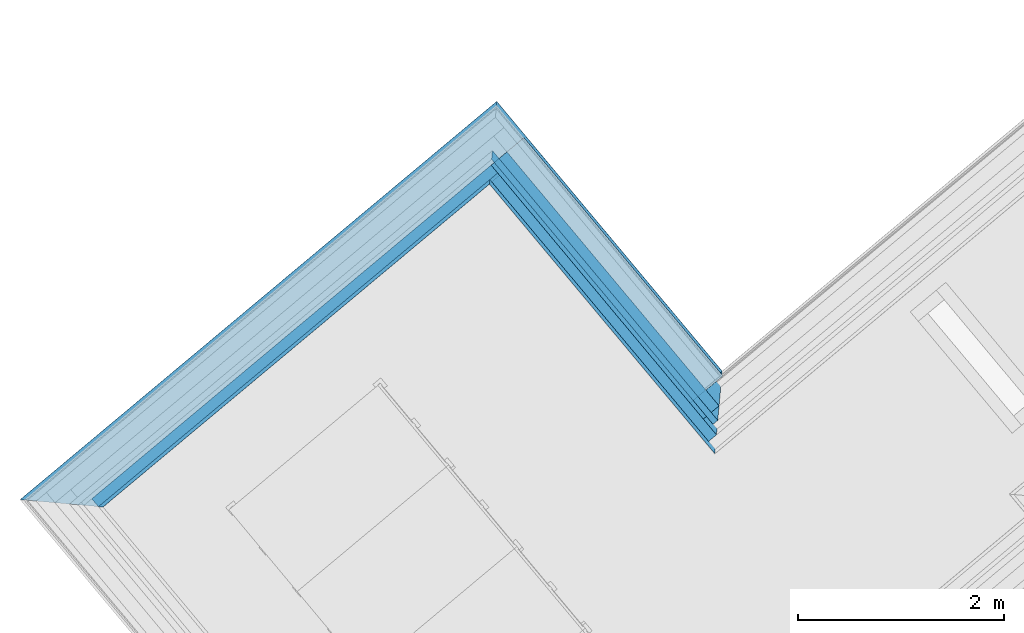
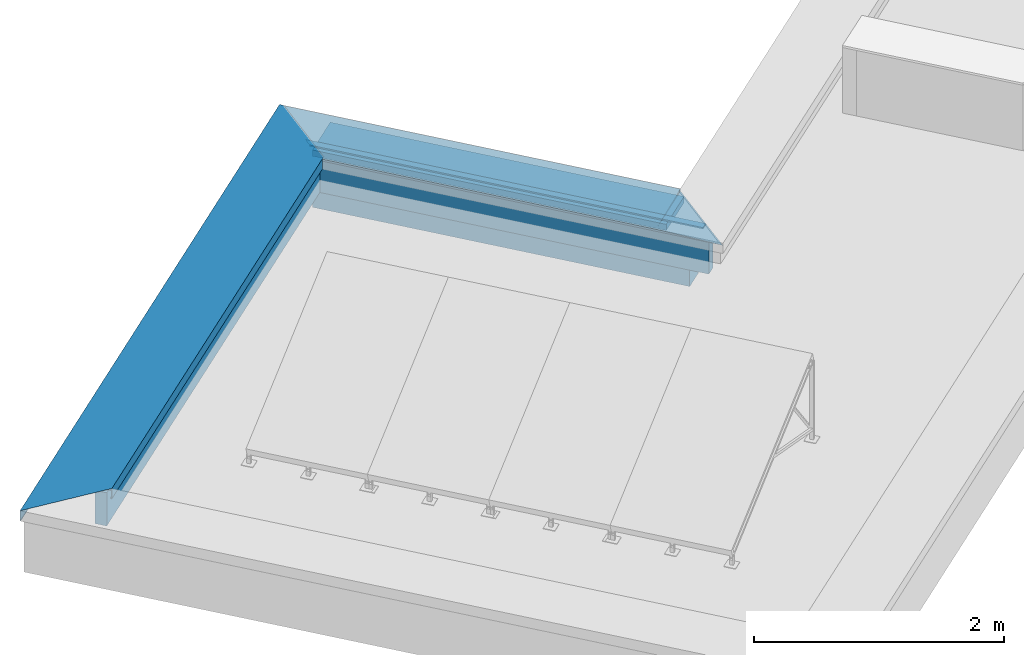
# One storey, part 3 of 13: 8 building element parts, 2 elements without a shape of their own.
"""IFC4 building model written with IfcOpenShell, lengths in metres."""

from ifc_helpers import new_model, entity, si_unit, converted_unit, derived_unit, direction, frame, origin_with_axes, place, context, subcontext, project, spatial, polygons, material, type_object, element, aggregate, save


model = new_model("IFC4")

# Units and contexts
model_context = context("Model", 3, precision=1e-05, world=origin_with_axes(), true_north=direction((0.0, 1.0)))
body_context = subcontext(model_context, "Body", "Model", "MODEL_VIEW")
ifc_project = project(units=[si_unit("LENGTHUNIT", "METRE"), si_unit("AREAUNIT", "SQUARE_METRE"), si_unit("VOLUMEUNIT", "CUBIC_METRE"), converted_unit("PLANEANGLEUNIT", "DEGREE", entity("IfcPlaneAngleMeasure", 0.0174532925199), si_unit("PLANEANGLEUNIT", "RADIAN"), dimensions=[0, 0, 0, 0, 0, 0, 0]), converted_unit("TIMEUNIT", "Year", entity("IfcTimeMeasure", 31556926.0), si_unit("TIMEUNIT", "SECOND"), dimensions=[0, 0, 1, 0, 0, 0, 0]), si_unit("MASSUNIT", "GRAM", prefix="KILO"), si_unit("THERMODYNAMICTEMPERATUREUNIT", "DEGREE_CELSIUS"), si_unit("LUMINOUSINTENSITYUNIT", "LUMEN"), si_unit("ENERGYUNIT", "JOULE", prefix="MEGA"), derived_unit("THERMALCONDUCTANCEUNIT", [(si_unit("POWERUNIT", "WATT"), 1), (si_unit("LENGTHUNIT", "METRE"), -1), (si_unit("THERMODYNAMICTEMPERATUREUNIT", "KELVIN"), -1)]), derived_unit("SPECIFICHEATCAPACITYUNIT", [(si_unit("ENERGYUNIT", "JOULE"), 1), (si_unit("MASSUNIT", "GRAM", prefix="KILO"), -1), (si_unit("THERMODYNAMICTEMPERATUREUNIT", "KELVIN"), -1)]), derived_unit("MASSDENSITYUNIT", [(si_unit("MASSUNIT", "GRAM", prefix="KILO"), 1), (si_unit("VOLUMEUNIT", "CUBIC_METRE"), -1)])], contexts=[model_context])

# Site, building, storey
site_placement = place(None, frame((-0.00153261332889, -0.00661245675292, 0.0), z_axis=(0.0, 0.0, 1.0), x_axis=(1.0, 0.0, 0.0)))
site = spatial("IfcSite", under=ifc_project, at=site_placement, Name="Gelände", CompositionType="ELEMENT")
building_placement = place(site_placement, origin_with_axes())
building = spatial("IfcBuilding", under=site, at=building_placement, Name="Gebäude", CompositionType="ELEMENT")
storey_placement = place(building_placement, frame((0.0, 0.0, 11.84), z_axis=(0.0, 0.0, 1.0), x_axis=(1.0, 0.0, 0.0)))
storey = spatial("IfcBuildingStorey", under=building, at=storey_placement, Name="DA", CompositionType="ELEMENT", Elevation=11.84)

# Wall, building element parts
wall_type = type_object("IfcWallType", Name="Individuelles Profil 574 x 610", PredefinedType="NOTDEFINED")
wall_1_placement = place(storey_placement, frame((-7.43474309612, 17.8596956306, 0.0), z_axis=(0.0, 0.0, 1.0), x_axis=(0.767365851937, 0.641209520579, 0.0)))
wall_1 = element("IfcWall", 1, at=wall_1_placement, inside=storey, type_object=wall_type, Name="Wand-004", PredefinedType="NOTDEFINED")
ifc_material_1 = material(Name="EPS 1")
building_element_part_1_placement = place(wall_1_placement, origin_with_axes())
building_element_part_1 = element("IfcBuildingElementPart", 2, at=building_element_part_1_placement, material=ifc_material_1, Name="EPS 1", PredefinedType="NOTDEFINED", context=body_context, shape_type="Tessellation", body=[
    polygons([(5.36020574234, -0.30000000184, 0.519224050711), (5.36020574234, -0.30000000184, 0.560000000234), (0.300000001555, -0.30000000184, 0.560000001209), (0.300000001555, -0.30000000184, 0.519224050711), (0.300000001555, -0.30000000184, 0.51136132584), (0.300000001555, -0.30000000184, 0.509050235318), (0.300000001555, -0.30000000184, 0.499999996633), (0.300000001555, -0.30000000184, 0.498822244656), (0.300000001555, -0.30000000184, 0.491006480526), (0.300000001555, -0.30000000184, 0.488695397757), (0.300000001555, -0.30000000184, 0.235000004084), (5.36020574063, -0.30000000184, 0.235000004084), (5.36020574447, -0.30000000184, 0.488695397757), (5.3602057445, -0.30000000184, 0.491006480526), (5.36020574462, -0.30000000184, 0.498822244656), (5.36020574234, -0.30000000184, 0.499999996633), (5.36020574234, -0.30000000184, 0.509050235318), (5.36020574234, -0.30000000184, 0.51136132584), (5.36020574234, -0.200000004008, 0.560000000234), (5.36020574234, -0.200000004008, 0.519224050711), (0.30000000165, -0.200000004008, 0.560000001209), (0.30000000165, -0.200000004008, 0.519224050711), (0.30000000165, -0.200000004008, 0.51136132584), (0.30000000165, -0.200000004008, 0.509050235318), (0.30000000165, -0.200000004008, 0.499999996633), (0.30000000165, -0.200000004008, 0.498822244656), (0.30000000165, -0.200000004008, 0.491006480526), (0.30000000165, -0.200000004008, 0.488695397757), (0.30000000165, -0.200000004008, 0.235000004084), (5.36020574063, -0.200000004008, 0.235000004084), (5.36020574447, -0.200000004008, 0.488695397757), (5.3602057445, -0.200000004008, 0.491006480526), (5.36020574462, -0.200000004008, 0.498822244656), (5.36020574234, -0.200000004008, 0.499999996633), (5.36020574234, -0.200000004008, 0.509050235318), (5.36020574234, -0.200000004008, 0.51136132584)], [[[1, 2, 3, 4, 5, 6, 7, 8, 9, 10, 11, 12, 13, 14, 15, 16, 17, 18]], [[19, 2, 1, 20]], [[2, 19, 21, 3]], [[4, 3, 21, 22]], [[4, 22, 23, 5]], [[5, 23, 24, 6]], [[6, 24, 25, 7]], [[7, 25, 26, 8]], [[8, 26, 27, 9]], [[9, 27, 28, 10]], [[10, 28, 29, 11]], [[30, 12, 11, 29]], [[31, 13, 12, 30]], [[32, 14, 13, 31]], [[33, 15, 14, 32]], [[34, 16, 15, 33]], [[35, 17, 16, 34]], [[36, 18, 17, 35]], [[20, 1, 18, 36]], [[19, 20, 36, 35, 34, 33, 32, 31, 30, 29, 28, 27, 26, 25, 24, 23, 22, 21]]], closed=True),
])
ifc_material_2 = material(Name="Holzwerkstoff")
building_element_part_2_placement = place(wall_1_placement, origin_with_axes())
building_element_part_2 = element("IfcBuildingElementPart", 3, at=building_element_part_2_placement, material=ifc_material_2, Name="Holzwerkstoff", PredefinedType="NOTDEFINED", context=body_context, shape_type="Tessellation", body=[
    polygons([(0.330698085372, -0.330698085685, 0.587937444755), (-0.239276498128, 0.239276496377, 0.608570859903), (0.330698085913, 0.23999703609, 0.587937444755), (5.80020278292, -0.330698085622, 0.587937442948), (5.79948224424, 0.239276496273, 0.608570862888), (0.330695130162, 0.239999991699, 0.587852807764), (5.80020278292, 0.239997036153, 0.587937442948), (5.80020573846, 0.239999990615, 0.587852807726), (0.330634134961, -0.330634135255, 0.586106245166), (0.330634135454, 0.189985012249, 0.586106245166), (0.330280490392, -0.330280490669, 0.575979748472), (0.330207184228, -0.330207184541, 0.573880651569), (0.329999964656, -0.329999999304, 0.567947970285), (5.23020580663, -0.329999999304, 0.567947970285), (5.40009552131, -0.330207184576, 0.573880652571), (5.46020574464, -0.330280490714, 0.575979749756), (5.69033072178, -0.33056113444, 0.584015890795), (5.75019065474, -0.330634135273, 0.586106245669), (5.80020573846, -0.330695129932, 0.587852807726), (0.330561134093, -0.330561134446, 0.584015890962), (5.75019053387, 0.189984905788, 0.586106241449), (0.330561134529, 0.130125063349, 0.584015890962), (0.33028049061, -0.100000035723, 0.575979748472), (0.33020718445, -0.160110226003, 0.573880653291), (5.40009551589, -0.160110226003, 0.573880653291), (5.46020574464, -0.0999999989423, 0.575979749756), (5.69033072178, 0.130124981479, 0.584015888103)], [[[1, 2, 3]], [[2, 1, 4, 5]], [[6, 3, 2, 5, 7, 8]], [[9, 1, 3, 6, 10]], [[11, 12, 13, 14, 15, 16, 17, 18, 19, 4, 1, 9, 20]], [[7, 5, 4]], [[8, 7, 4, 19]], [[10, 6, 8, 21]], [[20, 9, 10, 22]], [[12, 11, 23, 24]], [[13, 12, 24]], [[13, 24, 25, 14]], [[15, 14, 25]], [[16, 15, 25, 26]], [[16, 26, 27, 17]], [[27, 21, 18, 17]], [[21, 8, 19, 18]], [[23, 11, 20, 22]], [[22, 10, 21, 27]], [[24, 23, 26, 25]], [[23, 22, 27, 26]]], closed=True),
])
ifc_material_3 = material(Name="Stahl")
building_element_part_3_placement = place(wall_1_placement, origin_with_axes())
building_element_part_3 = element("IfcBuildingElementPart", 4, at=building_element_part_3_placement, material=ifc_material_3, Name="Stahl", PredefinedType="NOTDEFINED", context=body_context, shape_type="Tessellation", body=[
    polygons([(-0.240150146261, 0.240150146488, 0.567947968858), (-0.240150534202, 0.24015053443, 0.573880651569), (-0.240150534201, 0.241500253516, 0.573880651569), (-0.240150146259, 0.241500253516, 0.567947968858), (-0.240146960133, 0.240146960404, 0.519224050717), (-0.24014644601, 0.240146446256, 0.51136132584), (-0.238231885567, 0.240146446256, 0.511361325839), (5.80035219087, 0.240146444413, 0.51136132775), (5.80170600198, 0.240146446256, 0.51136132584), (5.80170600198, 0.240152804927, 0.608602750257), (5.80035854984, 0.240152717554, 0.608602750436), (-0.202730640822, 0.240152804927, 0.608602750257), (-0.240152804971, 0.240152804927, 0.608602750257), (-0.240152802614, 0.240152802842, 0.608570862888), (-0.240151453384, 0.240151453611, 0.587937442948), (-0.240151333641, 0.240151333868, 0.586106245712), (-0.240151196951, 0.240151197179, 0.584015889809), (-0.240150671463, 0.240150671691, 0.575979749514), (-0.240149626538, 0.240149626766, 0.55999999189), (-0.240150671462, 0.241500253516, 0.575979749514), (-0.238231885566, 0.241500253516, 0.511361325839), (-0.240146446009, 0.241500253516, 0.51136132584), (-0.240146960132, 0.241500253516, 0.519224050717), (-0.240149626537, 0.241500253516, 0.55999999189), (-0.24015119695, 0.241500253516, 0.584015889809), (-0.240151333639, 0.241500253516, 0.586106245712), (-0.240151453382, 0.241500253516, 0.587937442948), (-0.240152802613, 0.241500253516, 0.608570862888), (-0.24015280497, 0.241500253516, 0.608602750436), (-0.20273064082, 0.241500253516, 0.608602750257), (-0.241500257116, 0.241500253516, 0.610006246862), (5.80170600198, 0.241500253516, 0.610006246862), (5.80170600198, 0.241500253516, 0.510007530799), (-0.239585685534, 0.241500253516, 0.510007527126), (-0.231373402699, 0.233287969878, 0.518219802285), (-0.232283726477, 0.232283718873, 0.51922405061), (5.79248947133, 0.232283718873, 0.51922405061), (5.80035219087, 0.238231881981, 0.51136132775), (5.80170599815, 0.238231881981, 0.51136132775), (5.80170600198, 0.239585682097, 0.510007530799), (5.80170599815, 0.202730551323, 0.608602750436), (5.80035854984, 0.202730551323, 0.608602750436), (-0.201849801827, 0.239276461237, 0.608570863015), (-0.201934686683, 0.239360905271, 0.60857393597), (5.79956660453, 0.239360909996, 0.608573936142), (5.79948224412, 0.239276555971, 0.608570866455), (-0.202730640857, 0.202730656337, 0.608602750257), (-0.201849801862, 0.201849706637, 0.608570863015), (0.332051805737, -0.332051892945, 0.58924311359), (5.26557531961, -0.332051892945, 0.58924311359), (5.79948224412, 0.201849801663, 0.608570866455), (-0.240542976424, 0.240542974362, 0.509050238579), (5.80074872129, 0.240542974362, 0.509050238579), (-0.238231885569, 0.238231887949, 0.51136132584), (-0.231373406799, 0.231373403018, 0.518219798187), (5.79349372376, 0.231373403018, 0.518219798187), (0.332051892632, -0.330698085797, 0.587937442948), (0.332051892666, -0.294630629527, 0.589243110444), (5.22950765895, -0.330698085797, 0.587937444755), (0.332051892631, -0.332051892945, 0.491006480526), (0.332051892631, -0.332051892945, 0.489652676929), (5.23006841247, -0.332051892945, 0.489652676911), (5.23142221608, -0.332051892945, 0.491006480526), (5.22950765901, -0.332051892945, 0.491006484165), (5.22950766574, -0.332051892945, 0.498822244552), (5.22950766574, -0.332051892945, 0.499999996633), (5.22950766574, -0.332051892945, 0.509050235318), (5.22950766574, -0.332051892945, 0.51136132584), (5.22950766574, -0.332051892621, 0.519224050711), (5.22950766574, -0.332051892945, 0.55999999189), (5.22950766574, -0.332051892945, 0.567947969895), (5.22950766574, -0.332051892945, 0.573880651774), (5.22950766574, -0.332051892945, 0.575979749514), (5.22950766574, -0.332051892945, 0.584015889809), (5.22950766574, -0.332051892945, 0.586106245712), (5.22950765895, -0.332051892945, 0.587937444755), (0.332051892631, -0.332051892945, 0.587937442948), (0.332051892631, -0.332051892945, 0.586106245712), (0.332051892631, -0.332051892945, 0.584015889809), (0.332051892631, -0.332051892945, 0.575979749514), (0.332051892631, -0.332051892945, 0.573880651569), (0.332051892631, -0.332051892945, 0.567947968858), (0.332051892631, -0.332051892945, 0.55999999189), (0.332051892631, -0.332051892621, 0.519224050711), (0.332051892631, -0.332051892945, 0.51136132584), (0.332051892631, -0.332051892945, 0.509050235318), (0.332051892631, -0.332051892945, 0.499999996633), (0.332051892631, -0.332051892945, 0.498822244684), (0.332051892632, -0.330698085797, 0.491006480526), (0.332051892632, -0.330698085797, 0.498822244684), (0.332051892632, -0.330698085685, 0.499999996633), (0.332051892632, -0.330698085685, 0.509050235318), (0.332051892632, -0.330698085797, 0.51136132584), (0.332051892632, -0.330698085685, 0.519224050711), (0.332051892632, -0.330698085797, 0.55999999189), (0.332051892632, -0.330698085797, 0.567947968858), (0.332051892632, -0.330698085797, 0.573880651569), (0.332051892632, -0.330698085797, 0.575979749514), (0.332051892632, -0.330698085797, 0.584015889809), (0.332051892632, -0.330698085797, 0.586106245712), (5.22950766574, -0.330698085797, 0.586106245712), (5.22950766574, -0.330698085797, 0.584015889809), (5.22950766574, -0.330698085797, 0.575979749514), (5.22950766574, -0.330698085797, 0.573880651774), (5.22950766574, -0.330698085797, 0.567947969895), (5.22950766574, -0.330698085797, 0.55999999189), (5.22950766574, -0.330698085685, 0.519224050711), (5.22950766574, -0.330698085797, 0.51136132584), (5.22950766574, -0.330698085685, 0.509050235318), (5.22950766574, -0.330698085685, 0.499999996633), (5.22950766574, -0.330698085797, 0.498822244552), (5.22950765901, -0.330698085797, 0.491006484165), (0.332051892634, -0.32878353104, 0.491006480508), (0.332051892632, -0.33013733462, 0.489652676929), (0.331094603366, -0.331094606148, 0.4886954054), (5.22911114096, -0.331094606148, 0.4886954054), (5.23142221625, -0.328783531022, 0.491006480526), (5.23142221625, -0.330698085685, 0.491006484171), (0.330698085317, -0.330698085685, 0.491006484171), (5.23832767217, -0.323792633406, 0.497911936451), (5.23732342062, -0.32288233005, 0.498822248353), (0.322882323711, -0.32288233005, 0.498822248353), (0.330698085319, -0.328783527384, 0.491006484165), (0.323792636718, -0.321878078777, 0.497911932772), (5.23832767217, -0.321878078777, 0.497911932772)], [[[1, 2, 3, 4]], [[5, 6, 7, 8, 9, 10, 11, 12, 13, 14, 15, 16, 17, 18, 2, 1, 19]], [[2, 18, 20, 3]], [[21, 22, 23, 24, 4, 3, 20, 25, 26, 27, 28, 29, 30, 31, 32, 33, 34]], [[19, 1, 4, 24]], [[6, 5, 23, 22]], [[6, 22, 21, 7]], [[35, 36, 37, 8, 7]], [[38, 39, 9, 8]], [[40, 33, 32, 41, 10, 9, 39]], [[41, 42, 11, 10]], [[43, 44, 12, 11, 45, 46]], [[29, 13, 12, 30]], [[28, 14, 13, 29]], [[27, 15, 14, 28]], [[15, 27, 26, 16]], [[16, 26, 25, 17]], [[18, 17, 25, 20]], [[5, 19, 24, 23]], [[47, 31, 30, 12]], [[31, 47, 48, 49, 50, 51, 42, 41, 32]], [[52, 34, 33, 53]], [[52, 54, 7, 21, 34]], [[36, 35, 55]], [[36, 55, 56, 37]], [[56, 38, 8, 37]], [[54, 55, 35, 7]], [[55, 54, 52, 53, 40, 39, 38, 56]], [[53, 33, 40]], [[51, 46, 45, 11, 42]], [[43, 48, 47, 12, 44]], [[57, 58, 43, 46, 59]], [[48, 43, 58, 49]], [[60, 61, 62, 63, 64, 65, 66, 67, 68, 69, 70, 71, 72, 73, 74, 75, 76, 50, 49, 77, 78, 79, 80, 81, 82, 83, 84, 85, 86, 87, 88]], [[76, 59, 46, 51, 50]], [[58, 57, 77, 49]], [[89, 90, 91, 92, 93, 94, 95, 96, 97, 98, 99, 100, 57, 59, 101, 102, 103, 104, 105, 106, 107, 108, 109, 110, 111, 112]], [[89, 113, 114, 61, 60]], [[61, 115, 116, 62]], [[116, 117, 118, 63, 62]], [[112, 64, 63, 118]], [[112, 111, 65, 64]], [[66, 65, 111, 110]], [[110, 109, 67, 66]], [[68, 67, 109, 108]], [[108, 107, 69, 68]], [[107, 106, 70, 69]], [[71, 70, 106, 105]], [[72, 71, 105, 104]], [[73, 72, 104, 103]], [[103, 102, 74, 73]], [[102, 101, 75, 74]], [[59, 76, 75, 101]], [[77, 57, 100, 78]], [[79, 78, 100, 99]], [[80, 79, 99, 98]], [[81, 80, 98, 97]], [[96, 82, 81, 97]], [[95, 83, 82, 96]], [[83, 95, 94, 84]], [[93, 85, 84, 94]], [[92, 86, 85, 93]], [[91, 87, 86, 92]], [[90, 88, 87, 91]], [[89, 60, 88, 90]], [[119, 89, 112, 118, 120, 121, 122]], [[113, 89, 119, 123]], [[114, 113, 123, 124, 125, 117, 116, 115]], [[114, 115, 61]], [[117, 125, 120, 118]], [[121, 120, 125]], [[124, 122, 121, 125]], [[124, 123, 119, 122]]], closed=True),
])
aggregate(wall_1, [building_element_part_1, building_element_part_2, building_element_part_3])

wall_2_placement = place(storey_placement, frame((-3.16803107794, 21.4249524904, 0.0), z_axis=(0.0, 0.0, 1.0), x_axis=(0.641209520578, -0.767365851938, 0.0)))
wall_2 = element("IfcWall", 5, at=wall_2_placement, inside=storey, type_object=wall_type, Name="Wand-005", PredefinedType="NOTDEFINED")
ifc_material_4 = material(Name="Brettschichtholz")
building_element_part_4_placement = place(wall_2_placement, origin_with_axes())
building_element_part_4 = element("IfcBuildingElementPart", 6, at=building_element_part_4_placement, material=ifc_material_4, Name="Brettschichtholz", PredefinedType="NOTDEFINED", context=body_context, shape_type="Tessellation", body=[
    polygons([(0.200000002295, 0.214999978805, 0.519224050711), (0.200000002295, 0.214999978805, 0.560000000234), (3.2179191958, 0.214999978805, 0.559999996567), (3.2179191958, 0.214999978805, 0.519224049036), (3.2179191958, 0.214999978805, 0.511361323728), (3.2179191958, 0.214999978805, 0.509050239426), (3.2179191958, 0.214999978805, 0.500000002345), (0.200000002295, 0.214999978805, 0.499999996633), (0.200000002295, 0.214999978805, 0.509050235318), (0.200000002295, 0.214999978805, 0.51136132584), (0.200000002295, 0.190124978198, 0.560000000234), (0.200000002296, -0.200000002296, 0.519224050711), (0.200000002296, -0.200000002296, 0.560000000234), (0.200000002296, -0.159999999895, 0.560000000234), (0.200000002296, -0.0999999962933, 0.560000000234), (0.200000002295, 0.130124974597, 0.560000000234), (3.2179191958, 0.190124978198, 0.559999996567), (3.2179191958, 0.130124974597, 0.559999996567), (3.2179191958, -0.0999999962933, 0.559999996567), (3.2179191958, -0.159999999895, 0.559999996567), (3.2179191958, -0.200000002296, 0.559999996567), (3.2179191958, -0.200000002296, 0.519224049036), (3.2179191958, -0.200000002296, 0.511361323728), (3.2179191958, -0.200000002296, 0.509050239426), (3.2179191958, -0.200000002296, 0.500000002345), (0.200000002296, -0.200000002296, 0.499999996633), (0.200000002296, -0.200000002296, 0.509050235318), (0.200000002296, -0.200000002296, 0.51136132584)], [[[1, 2, 3, 4, 5, 6, 7, 8, 9, 10]], [[11, 2, 1, 12, 13, 14, 15, 16]], [[2, 11, 17, 3]], [[4, 3, 17, 18, 19, 20, 21, 22]], [[4, 22, 23, 5]], [[5, 23, 24, 6]], [[6, 24, 25, 7]], [[26, 8, 7, 25]], [[27, 9, 8, 26]], [[28, 10, 9, 27]], [[12, 1, 10, 28]], [[13, 12, 28, 27, 26, 25, 24, 23, 22, 21]], [[14, 13, 21, 20]], [[15, 14, 20, 19]], [[16, 15, 19, 18]], [[11, 16, 18, 17]]], closed=True),
])
ifc_material_5 = material(Name="Stahlbeton Wand Garage")
building_element_part_5_placement = place(wall_2_placement, origin_with_axes())
building_element_part_5 = element("IfcBuildingElementPart", 7, at=building_element_part_5_placement, material=ifc_material_5, Name="Stahlbeton Wand Garage", PredefinedType="NOTDEFINED", context=body_context, shape_type="Tessellation", body=[
    polygons([(0.200000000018, 0.0, 0.498822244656), (0.2, 0.0, 0.5), (3.41791915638, 0.0, 0.5), (3.41791915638, 0.0, 0.498822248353), (3.41791915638, 0.0, 0.491006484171), (3.41791915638, 0.0, 0.488695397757), (3.41791915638, 0.0, 0.235000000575), (3.41791915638, 0.0, 0.0), (0.2, 0.0, 0.0), (0.200000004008, 0.0, 0.235000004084), (0.200000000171, 0.0, 0.488695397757), (0.200000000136, 0.0, 0.491006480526), (0.2, -0.2, 0.5), (0.200000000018, -0.2, 0.498822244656), (3.41791915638, -0.2, 0.5), (3.41791915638, -0.2, 0.498822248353), (3.41791915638, -0.2, 0.491006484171), (3.41791915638, -0.2, 0.488695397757), (3.41791915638, -0.200000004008, 0.235000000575), (3.41791915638, -0.2, 0.0), (0.2, -0.2, 0.0), (0.200000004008, -0.200000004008, 0.235000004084), (0.200000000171, -0.2, 0.488695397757), (0.200000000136, -0.2, 0.491006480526)], [[[1, 2, 3, 4, 5, 6, 7, 8, 9, 10, 11, 12]], [[13, 2, 1, 14]], [[2, 13, 15, 3]], [[4, 3, 15, 16]], [[4, 16, 17, 5]], [[5, 17, 18, 6]], [[6, 18, 19, 7]], [[7, 19, 20, 8]], [[21, 9, 8, 20]], [[22, 10, 9, 21]], [[23, 11, 10, 22]], [[24, 12, 11, 23]], [[14, 1, 12, 24]], [[13, 14, 24, 23, 22, 19, 18, 17, 16, 15]], [[22, 21, 20, 19]]], closed=True),
])
ifc_material_6 = material(Name="Vollholz")
building_element_part_6_placement = place(wall_2_placement, origin_with_axes())
building_element_part_6 = element("IfcBuildingElementPart", 8, at=building_element_part_6_placement, material=ifc_material_6, Name="Vollholz", PredefinedType="NOTDEFINED", context=body_context, shape_type="Tessellation", body=[
    polygons([(0.160110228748, -0.160110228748, 0.573880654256), (0.160110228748, -0.1, 0.573880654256), (0.160063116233, -0.1, 0.567947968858), (0.160063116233, -0.160063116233, 0.567947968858), (0.1, -0.1, 0.575979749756), (3.51791915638, -0.1, 0.575979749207), (3.51791915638, -0.1, 0.573880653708), (3.51791915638, -0.1, 0.567947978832), (3.51791915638, -0.1, 0.560000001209), (0.16, -0.1, 0.560000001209), (0.16, -0.16, 0.560000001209), (3.51791915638, -0.16, 0.560000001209), (3.51791915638, -0.160063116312, 0.567947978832), (3.51791915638, -0.160110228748, 0.573880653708)], [[[1, 2, 3, 4]], [[5, 2, 1]], [[2, 5, 6, 7, 8, 9, 10, 3]], [[4, 3, 10, 11]], [[1, 4, 11, 12, 13, 14]], [[5, 1, 14, 6]], [[7, 6, 14]], [[7, 14, 13, 8]], [[8, 13, 12, 9]], [[11, 10, 9, 12]]], closed=True),
])
building_element_part_7_placement = place(wall_2_placement, origin_with_axes())
building_element_part_7 = element("IfcBuildingElementPart", 9, at=building_element_part_7_placement, material=ifc_material_1, Name="EPS 1", PredefinedType="NOTDEFINED", context=body_context, shape_type="Tessellation", body=[
    polygons([(0.30000000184, -0.200000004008, 0.519224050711), (0.30000000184, -0.200000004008, 0.560000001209), (3.61791915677, -0.200000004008, 0.560000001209), (3.61791915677, -0.200000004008, 0.519224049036), (3.61791915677, -0.200000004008, 0.511361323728), (3.61791915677, -0.200000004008, 0.509050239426), (3.61791915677, -0.200000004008, 0.5), (3.61791915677, -0.200000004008, 0.498822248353), (3.61791915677, -0.200000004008, 0.491006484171), (3.61791915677, -0.200000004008, 0.488695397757), (3.61791915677, -0.200000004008, 0.235000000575), (0.30000000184, -0.200000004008, 0.235000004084), (0.30000000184, -0.200000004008, 0.488695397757), (0.30000000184, -0.200000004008, 0.491006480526), (0.30000000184, -0.200000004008, 0.498822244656), (0.30000000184, -0.200000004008, 0.499999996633), (0.30000000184, -0.200000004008, 0.509050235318), (0.30000000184, -0.200000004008, 0.51136132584), (0.30000000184, -0.30000000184, 0.560000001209), (0.30000000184, -0.30000000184, 0.519224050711), (3.61791915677, -0.30000000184, 0.560000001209), (3.61791915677, -0.30000000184, 0.519224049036), (3.61791915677, -0.30000000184, 0.511361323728), (3.61791915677, -0.30000000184, 0.509050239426), (3.61791915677, -0.30000000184, 0.5), (3.61791915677, -0.30000000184, 0.498822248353), (3.61791915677, -0.30000000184, 0.491006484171), (3.61791915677, -0.30000000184, 0.488695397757), (3.61791915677, -0.30000000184, 0.235000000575), (0.30000000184, -0.30000000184, 0.235000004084), (0.30000000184, -0.30000000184, 0.488695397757), (0.30000000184, -0.30000000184, 0.491006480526), (0.30000000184, -0.30000000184, 0.498822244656), (0.30000000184, -0.30000000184, 0.499999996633), (0.30000000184, -0.30000000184, 0.509050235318), (0.30000000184, -0.30000000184, 0.51136132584)], [[[1, 2, 3, 4, 5, 6, 7, 8, 9, 10, 11, 12, 13, 14, 15, 16, 17, 18]], [[19, 2, 1, 20]], [[2, 19, 21, 3]], [[4, 3, 21, 22]], [[4, 22, 23, 5]], [[5, 23, 24, 6]], [[6, 24, 25, 7]], [[7, 25, 26, 8]], [[8, 26, 27, 9]], [[9, 27, 28, 10]], [[10, 28, 29, 11]], [[30, 12, 11, 29]], [[31, 13, 12, 30]], [[32, 14, 13, 31]], [[33, 15, 14, 32]], [[34, 16, 15, 33]], [[35, 17, 16, 34]], [[36, 18, 17, 35]], [[20, 1, 18, 36]], [[19, 20, 36, 35, 34, 33, 32, 31, 30, 29, 28, 27, 26, 25, 24, 23, 22, 21]]], closed=True),
])
building_element_part_8_placement = place(wall_2_placement, origin_with_axes())
building_element_part_8 = element("IfcBuildingElementPart", 10, at=building_element_part_8_placement, material=ifc_material_2, Name="Holzwerkstoff", PredefinedType="NOTDEFINED", context=body_context, shape_type="Tessellation", body=[
    polygons([(0.329999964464, -0.329999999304, 0.567947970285), (0.330207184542, -0.160110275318, 0.573880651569), (3.57802942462, -0.160110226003, 0.573880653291), (3.74791914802, -0.329999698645, 0.567947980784), (0.330207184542, -0.330207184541, 0.573880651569), (0.330280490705, -0.100000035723, 0.575979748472), (3.51791916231, -0.0999999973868, 0.575979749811), (3.57802938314, -0.330207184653, 0.573880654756), (0.330561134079, -0.330561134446, 0.584015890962), (0.330280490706, -0.330280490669, 0.575979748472), (3.51791916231, -0.330280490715, 0.575979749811), (3.28779417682, -0.330561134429, 0.584015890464), (3.22793424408, -0.330634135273, 0.586106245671), (3.17791916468, -0.330695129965, 0.587852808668), (3.17792212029, -0.330698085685, 0.587937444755), (0.330698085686, -0.330698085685, 0.587937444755), (0.330634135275, -0.330634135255, 0.586106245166), (3.28779424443, 0.130124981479, 0.584015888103), (0.330561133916, 0.130124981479, 0.584015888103), (3.22793436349, 0.189984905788, 0.586106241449), (3.17791918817, 0.239999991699, 0.587852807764), (3.17792216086, -0.330665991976, 0.587938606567), (3.17792216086, 0.239996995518, 0.587938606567), (-0.239276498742, 0.239276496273, 0.608570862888), (3.17864266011, 0.239276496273, 0.608570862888), (0.330698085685, 0.23999703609, 0.587937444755), (0.330695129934, 0.239999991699, 0.587852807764), (0.330634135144, 0.189984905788, 0.586106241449)], [[[1, 2, 3, 4]], [[2, 1, 5]], [[2, 6, 7, 3]], [[4, 3, 8]], [[9, 10, 5, 1, 4, 8, 11, 12, 13, 14, 15, 16, 17]], [[2, 5, 10, 6]], [[18, 7, 6, 19]], [[8, 3, 7, 11]], [[10, 9, 19, 6]], [[7, 18, 12, 11]], [[13, 12, 18, 20]], [[14, 13, 20, 21]], [[22, 15, 14, 21, 23]], [[24, 16, 15, 22, 25]], [[17, 16, 26, 27, 28]], [[9, 17, 28, 19]], [[19, 28, 20, 18]], [[28, 27, 21, 20]], [[26, 24, 25, 23, 21, 27]], [[22, 23, 25]], [[26, 16, 24]]], closed=True),
])
aggregate(wall_2, [building_element_part_4, building_element_part_5, building_element_part_6, building_element_part_7, building_element_part_8])

save(model, "model.ifc")
